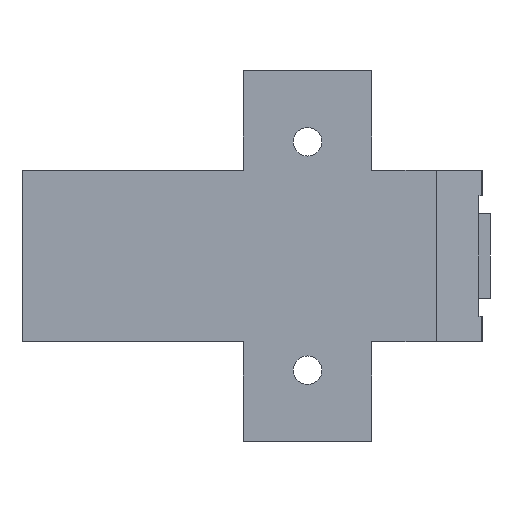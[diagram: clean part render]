
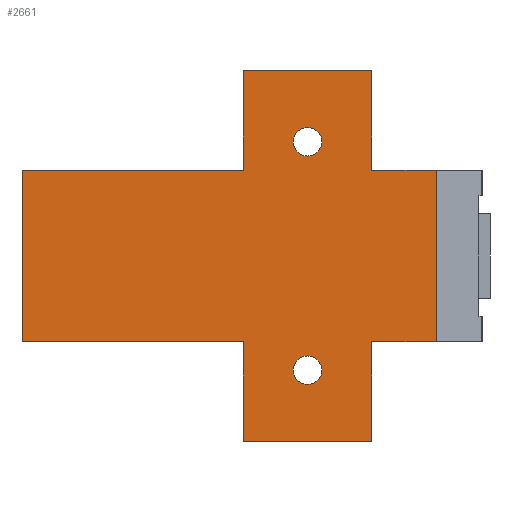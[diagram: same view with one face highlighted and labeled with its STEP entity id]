
A CAD part, left-side view. The second image highlights one B-rep face of the part: STEP entity #2661.
In plain terms, the highlighted planar face has unit normal (-1, 0, 0).
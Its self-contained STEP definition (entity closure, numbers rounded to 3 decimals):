
#17 = CIRCLE ( 'NONE', #379, 2. ) ;
#19 = AXIS2_PLACEMENT_3D ( 'NONE', #1204, #1205, #1206 ) ;
#26 = VECTOR ( 'NONE', #2432, 1000. ) ;
#39 = VECTOR ( 'NONE', #2449, 1000. ) ;
#55 = VECTOR ( 'NONE', #2437, 1000. ) ;
#64 = CIRCLE ( 'NONE', #19, 2. ) ;
#128 = VECTOR ( 'NONE', #2452, 1000. ) ;
#138 = VECTOR ( 'NONE', #2405, 1000. ) ;
#159 = VECTOR ( 'NONE', #2443, 1000. ) ;
#215 = CIRCLE ( 'NONE', #254, 2. ) ;
#254 = AXIS2_PLACEMENT_3D ( 'NONE', #1108, #1109, #1110 ) ;
#263 = VECTOR ( 'NONE', #2429, 1000. ) ;
#364 = VECTOR ( 'NONE', #2421, 1000. ) ;
#373 = VECTOR ( 'NONE', #2435, 1000. ) ;
#379 = AXIS2_PLACEMENT_3D ( 'NONE', #2457, #2458, #2459 ) ;
#388 = VECTOR ( 'NONE', #2426, 1000. ) ;
#390 = AXIS2_PLACEMENT_3D ( 'NONE', #1690, #1686, #1694 ) ;
#409 = CIRCLE ( 'NONE', #417, 2. ) ;
#417 = AXIS2_PLACEMENT_3D ( 'NONE', #2454, #2455, #2456 ) ;
#429 = VECTOR ( 'NONE', #2440, 1000. ) ;
#446 = VECTOR ( 'NONE', #2446, 1000. ) ;
#894 = CARTESIAN_POINT ( 'NONE',  ( 0., 4., -12. ) ) ;
#896 = CARTESIAN_POINT ( 'NONE',  ( 0., 4., -26. ) ) ;
#898 = CARTESIAN_POINT ( 'NONE',  ( 0., 53., -12. ) ) ;
#903 = CARTESIAN_POINT ( 'NONE',  ( 0., 22., 12. ) ) ;
#910 = CARTESIAN_POINT ( 'NONE',  ( 0., 13., 14. ) ) ;
#924 = CARTESIAN_POINT ( 'NONE',  ( 0., 22., 26. ) ) ;
#929 = CARTESIAN_POINT ( 'NONE',  ( 0., 22., -26. ) ) ;
#932 = CARTESIAN_POINT ( 'NONE',  ( 0., 53., 12. ) ) ;
#941 = CARTESIAN_POINT ( 'NONE',  ( 0., 4., 12. ) ) ;
#945 = CARTESIAN_POINT ( 'NONE',  ( 0., -5.007, -12. ) ) ;
#949 = CARTESIAN_POINT ( 'NONE',  ( 0., 22., -12. ) ) ;
#954 = CARTESIAN_POINT ( 'NONE',  ( 0., 13., -18. ) ) ;
#969 = CARTESIAN_POINT ( 'NONE',  ( 0., 13., 18. ) ) ;
#1004 = CARTESIAN_POINT ( 'NONE',  ( 0., 4., 26. ) ) ;
#1005 = CARTESIAN_POINT ( 'NONE',  ( 0., -5.007, 12. ) ) ;
#1108 = CARTESIAN_POINT ( 'NONE',  ( 0., 13., 16. ) ) ;
#1109 = DIRECTION ( 'NONE',  ( 1., 0., 0. ) ) ;
#1110 = DIRECTION ( 'NONE',  ( 0., 0., -1. ) ) ;
#1204 = CARTESIAN_POINT ( 'NONE',  ( 0., 13., -16. ) ) ;
#1205 = DIRECTION ( 'NONE',  ( -1., 0., 0. ) ) ;
#1206 = DIRECTION ( 'NONE',  ( 0., 0., 1. ) ) ;
#1347 = CARTESIAN_POINT ( 'NONE',  ( 0., 13., -14. ) ) ;
#1684 = FACE_BOUND ( 'NONE', #1929, .T. ) ;
#1686 = DIRECTION ( 'NONE',  ( 1., 0., 0. ) ) ;
#1689 = FACE_OUTER_BOUND ( 'NONE', #1915, .T. ) ;
#1690 = CARTESIAN_POINT ( 'NONE',  ( 0., -5.007, -12. ) ) ;
#1692 = FACE_BOUND ( 'NONE', #1902, .T. ) ;
#1693 = PLANE ( 'NONE',  #390 ) ;
#1694 = DIRECTION ( 'NONE',  ( 0., 0., -1. ) ) ;
#1764 = EDGE_CURVE ( 'NONE', #3212, #2589, #64, .T. ) ;
#1772 = ORIENTED_EDGE ( 'NONE', *, *, #2768, .T. ) ;
#1779 = ORIENTED_EDGE ( 'NONE', *, *, #2762, .T. ) ;
#1780 = ORIENTED_EDGE ( 'NONE', *, *, #2765, .F. ) ;
#1782 = ORIENTED_EDGE ( 'NONE', *, *, #2769, .F. ) ;
#1789 = ORIENTED_EDGE ( 'NONE', *, *, #2770, .T. ) ;
#1798 = ORIENTED_EDGE ( 'NONE', *, *, #2764, .F. ) ;
#1806 = ORIENTED_EDGE ( 'NONE', *, *, #2766, .F. ) ;
#1812 = ORIENTED_EDGE ( 'NONE', *, *, #2767, .F. ) ;
#1817 = ORIENTED_EDGE ( 'NONE', *, *, #2771, .T. ) ;
#1820 = ORIENTED_EDGE ( 'NONE', *, *, #2757, .F. ) ;
#1902 = EDGE_LOOP ( 'NONE', ( #2960, #2917 ) ) ;
#1915 = EDGE_LOOP ( 'NONE', ( #1798, #1779, #1780, #1820, #1806, #1812, #1772, #1782, #1789, #1817, #2932, #2945 ) ) ;
#1929 = EDGE_LOOP ( 'NONE', ( #2974, #2908 ) ) ;
#2403 = LINE ( 'NONE', #2404, #138 ) ;
#2404 = CARTESIAN_POINT ( 'NONE',  ( 0., -5.007, -12. ) ) ;
#2405 = DIRECTION ( 'NONE',  ( 0., 1., 0. ) ) ;
#2410 = LINE ( 'NONE', #2419, #364 ) ;
#2417 = LINE ( 'NONE', #2425, #388 ) ;
#2419 = CARTESIAN_POINT ( 'NONE',  ( 0., -5.007, 12. ) ) ;
#2420 = LINE ( 'NONE', #2433, #373 ) ;
#2421 = DIRECTION ( 'NONE',  ( 0., 1., 0. ) ) ;
#2423 = LINE ( 'NONE', #2436, #55 ) ;
#2425 = CARTESIAN_POINT ( 'NONE',  ( 0., 22., -26. ) ) ;
#2426 = DIRECTION ( 'NONE',  ( 0., 0., 1. ) ) ;
#2427 = LINE ( 'NONE', #2428, #263 ) ;
#2428 = CARTESIAN_POINT ( 'NONE',  ( 0., 53., -12. ) ) ;
#2429 = DIRECTION ( 'NONE',  ( 0., 0., 1. ) ) ;
#2430 = LINE ( 'NONE', #2431, #26 ) ;
#2431 = CARTESIAN_POINT ( 'NONE',  ( 0., 22., -26. ) ) ;
#2432 = DIRECTION ( 'NONE',  ( 0., 0., 1. ) ) ;
#2433 = CARTESIAN_POINT ( 'NONE',  ( 0., 4., -26. ) ) ;
#2435 = DIRECTION ( 'NONE',  ( 0., 1., 0. ) ) ;
#2436 = CARTESIAN_POINT ( 'NONE',  ( 0., 4., -26. ) ) ;
#2437 = DIRECTION ( 'NONE',  ( 0., 0., 1. ) ) ;
#2438 = LINE ( 'NONE', #2439, #429 ) ;
#2439 = CARTESIAN_POINT ( 'NONE',  ( 0., -5.007, -12. ) ) ;
#2440 = DIRECTION ( 'NONE',  ( 0., 1., 0. ) ) ;
#2441 = LINE ( 'NONE', #2442, #159 ) ;
#2442 = CARTESIAN_POINT ( 'NONE',  ( 0., -5.007, -12. ) ) ;
#2443 = DIRECTION ( 'NONE',  ( 0., 0., 1. ) ) ;
#2444 = LINE ( 'NONE', #2445, #446 ) ;
#2445 = CARTESIAN_POINT ( 'NONE',  ( 0., -5.007, 12. ) ) ;
#2446 = DIRECTION ( 'NONE',  ( 0., 1., 0. ) ) ;
#2447 = LINE ( 'NONE', #2448, #39 ) ;
#2448 = CARTESIAN_POINT ( 'NONE',  ( 0., 4., -26. ) ) ;
#2449 = DIRECTION ( 'NONE',  ( 0., 0., 1. ) ) ;
#2450 = LINE ( 'NONE', #2451, #128 ) ;
#2451 = CARTESIAN_POINT ( 'NONE',  ( 0., 4., 26. ) ) ;
#2452 = DIRECTION ( 'NONE',  ( 0., 1., 0. ) ) ;
#2454 = CARTESIAN_POINT ( 'NONE',  ( 0., 13., 16. ) ) ;
#2455 = DIRECTION ( 'NONE',  ( 1., 0., 0. ) ) ;
#2456 = DIRECTION ( 'NONE',  ( 0., 0., -1. ) ) ;
#2457 = CARTESIAN_POINT ( 'NONE',  ( 0., 13., -16. ) ) ;
#2458 = DIRECTION ( 'NONE',  ( -1., 0., 0. ) ) ;
#2459 = DIRECTION ( 'NONE',  ( 0., 0., 1. ) ) ;
#2589 = VERTEX_POINT ( 'NONE', #1347 ) ;
#2661 = ADVANCED_FACE ( 'NONE', ( #1689, #1684, #1692 ), #1693, .F. ) ;
#2757 = EDGE_CURVE ( 'NONE', #3214, #3149, #2403, .T. ) ;
#2762 = EDGE_CURVE ( 'NONE', #3155, #3194, #2410, .T. ) ;
#2764 = EDGE_CURVE ( 'NONE', #3155, #3178, #2417, .T. ) ;
#2765 = EDGE_CURVE ( 'NONE', #3149, #3194, #2427, .T. ) ;
#2766 = EDGE_CURVE ( 'NONE', #3183, #3214, #2430, .T. ) ;
#2767 = EDGE_CURVE ( 'NONE', #3146, #3183, #2420, .T. ) ;
#2768 = EDGE_CURVE ( 'NONE', #3146, #3151, #2423, .T. ) ;
#2769 = EDGE_CURVE ( 'NONE', #3202, #3151, #2438, .T. ) ;
#2770 = EDGE_CURVE ( 'NONE', #3202, #3264, #2441, .T. ) ;
#2771 = EDGE_CURVE ( 'NONE', #3264, #3197, #2444, .T. ) ;
#2772 = EDGE_CURVE ( 'NONE', #3197, #3263, #2447, .T. ) ;
#2773 = EDGE_CURVE ( 'NONE', #3263, #3178, #2450, .T. ) ;
#2774 = EDGE_CURVE ( 'NONE', #3170, #3228, #409, .T. ) ;
#2775 = EDGE_CURVE ( 'NONE', #2589, #3212, #17, .T. ) ;
#2908 = ORIENTED_EDGE ( 'NONE', *, *, #3410, .T. ) ;
#2917 = ORIENTED_EDGE ( 'NONE', *, *, #2775, .F. ) ;
#2932 = ORIENTED_EDGE ( 'NONE', *, *, #2772, .T. ) ;
#2945 = ORIENTED_EDGE ( 'NONE', *, *, #2773, .T. ) ;
#2960 = ORIENTED_EDGE ( 'NONE', *, *, #1764, .F. ) ;
#2974 = ORIENTED_EDGE ( 'NONE', *, *, #2774, .T. ) ;
#3146 = VERTEX_POINT ( 'NONE', #896 ) ;
#3149 = VERTEX_POINT ( 'NONE', #898 ) ;
#3151 = VERTEX_POINT ( 'NONE', #894 ) ;
#3155 = VERTEX_POINT ( 'NONE', #903 ) ;
#3170 = VERTEX_POINT ( 'NONE', #910 ) ;
#3178 = VERTEX_POINT ( 'NONE', #924 ) ;
#3183 = VERTEX_POINT ( 'NONE', #929 ) ;
#3194 = VERTEX_POINT ( 'NONE', #932 ) ;
#3197 = VERTEX_POINT ( 'NONE', #941 ) ;
#3202 = VERTEX_POINT ( 'NONE', #945 ) ;
#3212 = VERTEX_POINT ( 'NONE', #954 ) ;
#3214 = VERTEX_POINT ( 'NONE', #949 ) ;
#3228 = VERTEX_POINT ( 'NONE', #969 ) ;
#3263 = VERTEX_POINT ( 'NONE', #1004 ) ;
#3264 = VERTEX_POINT ( 'NONE', #1005 ) ;
#3410 = EDGE_CURVE ( 'NONE', #3228, #3170, #215, .T. ) ;
